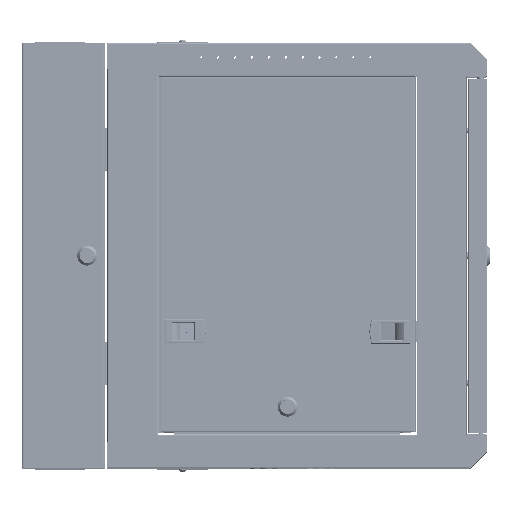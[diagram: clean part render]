
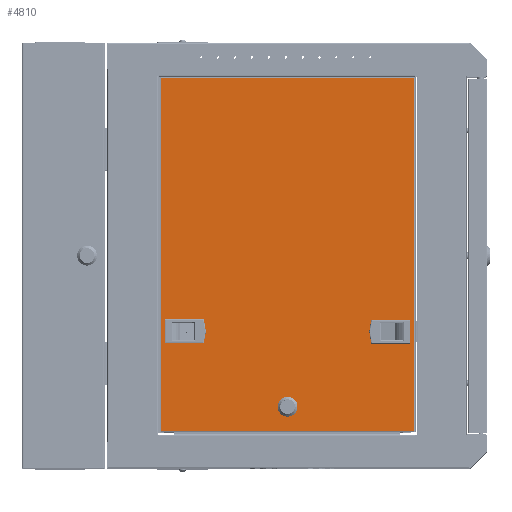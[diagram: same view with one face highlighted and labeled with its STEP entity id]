
A CAD part, top view. The second image highlights one B-rep face of the part: STEP entity #4810.
In plain terms, the highlighted planar face has unit normal (0, 0, 1) as drawn and (0, -1, 0) by its records, which use the part's own axes.
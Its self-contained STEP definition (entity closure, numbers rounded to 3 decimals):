
#4810 = ADVANCED_FACE( 'NONE', ( #12824, #12825, #12826, #12827 ), #12828, .T. );
#12824 = FACE_OUTER_BOUND( '', #32072, .T. );
#12825 = FACE_BOUND( '', #32073, .T. );
#12826 = FACE_BOUND( '', #32074, .T. );
#12827 = FACE_BOUND( '', #32075, .T. );
#12828 = PLANE( '', #32076 );
#32072 = EDGE_LOOP( '', ( #60616, #60617, #60618, #60619 ) );
#32073 = EDGE_LOOP( '', ( #60620, #60621, #60622, #60623 ) );
#32074 = EDGE_LOOP( '', ( #60624, #60625, #60626, #60627 ) );
#32075 = EDGE_LOOP( '', ( #60628, #60629, #60630, #60631 ) );
#32076 = AXIS2_PLACEMENT_3D( '', #60632, #60633, #60634 );
#60616 = ORIENTED_EDGE( '', *, *, #78583, .F. );
#60617 = ORIENTED_EDGE( '', *, *, #78477, .T. );
#60618 = ORIENTED_EDGE( '', *, *, #78415, .T. );
#60619 = ORIENTED_EDGE( '', *, *, #78419, .T. );
#60620 = ORIENTED_EDGE( '', *, *, #78644, .F. );
#60621 = ORIENTED_EDGE( '', *, *, #78645, .F. );
#60622 = ORIENTED_EDGE( '', *, *, #78627, .F. );
#60623 = ORIENTED_EDGE( '', *, *, #78568, .F. );
#60624 = ORIENTED_EDGE( '', *, *, #78603, .F. );
#60625 = ORIENTED_EDGE( '', *, *, #78612, .F. );
#60626 = ORIENTED_EDGE( '', *, *, #78474, .F. );
#60627 = ORIENTED_EDGE( '', *, *, #78589, .F. );
#60628 = ORIENTED_EDGE( '', *, *, #78611, .F. );
#60629 = ORIENTED_EDGE( '', *, *, #78639, .F. );
#60630 = ORIENTED_EDGE( '', *, *, #78586, .F. );
#60631 = ORIENTED_EDGE( '', *, *, #78594, .F. );
#60632 = CARTESIAN_POINT( '', ( -151.5, 0., 210.35 ) );
#60633 = DIRECTION( '', ( 0., -1., 0. ) );
#60634 = DIRECTION( '', ( 0., 0., -1. ) );
#78415 = EDGE_CURVE( 'NONE', #95142, #95140, #95143, .T. );
#78419 = EDGE_CURVE( 'NONE', #95140, #95149, #95150, .T. );
#78474 = EDGE_CURVE( 'NONE', #95251, #95253, #95254, .T. );
#78477 = EDGE_CURVE( 'NONE', #95258, #95142, #95259, .T. );
#78568 = EDGE_CURVE( 'NONE', #95412, #95414, #95415, .T. );
#78583 = EDGE_CURVE( 'NONE', #95258, #95149, #95441, .T. );
#78586 = EDGE_CURVE( 'NONE', #95443, #95445, #95446, .T. );
#78589 = EDGE_CURVE( 'NONE', #95448, #95251, #95450, .T. );
#78594 = EDGE_CURVE( 'NONE', #95456, #95443, #95458, .T. );
#78603 = EDGE_CURVE( 'NONE', #95469, #95448, #95471, .T. );
#78611 = EDGE_CURVE( 'NONE', #95480, #95456, #95482, .T. );
#78612 = EDGE_CURVE( 'NONE', #95253, #95469, #95483, .T. );
#78627 = EDGE_CURVE( 'NONE', #95414, #95503, #95504, .T. );
#78639 = EDGE_CURVE( 'NONE', #95445, #95480, #95519, .T. );
#78644 = EDGE_CURVE( 'NONE', #95525, #95412, #95526, .T. );
#78645 = EDGE_CURVE( 'NONE', #95503, #95525, #95527, .T. );
#95140 = VERTEX_POINT( 'NONE', #128069 );
#95142 = VERTEX_POINT( 'NONE', #128072 );
#95143 = LINE( '', #128073, #128074 );
#95149 = VERTEX_POINT( 'NONE', #128082 );
#95150 = LINE( '', #128083, #128084 );
#95251 = VERTEX_POINT( 'NONE', #128220 );
#95253 = VERTEX_POINT( 'NONE', #128223 );
#95254 = LINE( '', #128224, #128225 );
#95258 = VERTEX_POINT( 'NONE', #128231 );
#95259 = LINE( '', #128232, #128233 );
#95412 = VERTEX_POINT( 'NONE', #128448 );
#95414 = VERTEX_POINT( 'NONE', #128451 );
#95415 = LINE( '', #128452, #128453 );
#95441 = LINE( '', #128489, #128490 );
#95443 = VERTEX_POINT( 'NONE', #128493 );
#95445 = VERTEX_POINT( 'NONE', #128496 );
#95446 = CIRCLE( '', #128497, 9.5 );
#95448 = VERTEX_POINT( 'NONE', #128500 );
#95450 = LINE( '', #128503, #128504 );
#95456 = VERTEX_POINT( 'NONE', #128513 );
#95458 = LINE( '', #128516, #128517 );
#95469 = VERTEX_POINT( 'NONE', #128534 );
#95471 = LINE( '', #128537, #128538 );
#95480 = VERTEX_POINT( 'NONE', #128553 );
#95482 = CIRCLE( '', #128556, 9.5 );
#95483 = LINE( '', #128557, #128558 );
#95503 = VERTEX_POINT( 'NONE', #128590 );
#95504 = LINE( '', #128591, #128592 );
#95519 = LINE( '', #128614, #128615 );
#95525 = VERTEX_POINT( 'NONE', #128624 );
#95526 = LINE( '', #128625, #128626 );
#95527 = LINE( '', #128627, #128628 );
#128069 = CARTESIAN_POINT( '', ( -150.2, 0., -209.05 ) );
#128072 = CARTESIAN_POINT( '', ( -150.2, 0., 209.05 ) );
#128073 = CARTESIAN_POINT( '', ( -150.2, 0., 210.35 ) );
#128074 = VECTOR( '', #148989, 1000. );
#128082 = CARTESIAN_POINT( '', ( 150.2, 0., -209.05 ) );
#128083 = CARTESIAN_POINT( '', ( -150.2, 0., -209.05 ) );
#128084 = VECTOR( '', #148995, 1000. );
#128220 = CARTESIAN_POINT( '', ( -101.3, 0., -103.95 ) );
#128223 = CARTESIAN_POINT( '', ( -101.3, 0., -78.95 ) );
#128224 = CARTESIAN_POINT( '', ( -101.3, 0., -78.95 ) );
#128225 = VECTOR( '', #149086, 1000. );
#128231 = CARTESIAN_POINT( '', ( 150.2, 0., 209.05 ) );
#128232 = CARTESIAN_POINT( '', ( 150.2, 0., 209.05 ) );
#128233 = VECTOR( '', #149089, 1000. );
#128448 = CARTESIAN_POINT( '', ( 101.3, 0., -78.95 ) );
#128451 = CARTESIAN_POINT( '', ( 101.3, 0., -103.95 ) );
#128452 = CARTESIAN_POINT( '', ( 101.3, 0., -78.95 ) );
#128453 = VECTOR( '', #149234, 1000. );
#128489 = CARTESIAN_POINT( '', ( 150.2, 0., 210.35 ) );
#128490 = VECTOR( '', #149257, 1000. );
#128493 = CARTESIAN_POINT( '', ( -8.5, 0., -184.593 ) );
#128496 = CARTESIAN_POINT( '', ( 8.5, 0., -184.593 ) );
#128497 = AXIS2_PLACEMENT_3D( '', #149260, #149261, #149262 );
#128500 = CARTESIAN_POINT( '', ( -137.7, 0., -103.95 ) );
#128503 = CARTESIAN_POINT( '', ( -137.7, 0., -103.95 ) );
#128504 = VECTOR( '', #149265, 1000. );
#128513 = CARTESIAN_POINT( '', ( -8.5, 0., -176.107 ) );
#128516 = CARTESIAN_POINT( '', ( -8.5, 0., -176.107 ) );
#128517 = VECTOR( '', #149270, 1000. );
#128534 = CARTESIAN_POINT( '', ( -137.7, 0., -78.95 ) );
#128537 = CARTESIAN_POINT( '', ( -137.7, 0., -78.95 ) );
#128538 = VECTOR( '', #149281, 1000. );
#128553 = CARTESIAN_POINT( '', ( 8.5, 0., -176.107 ) );
#128556 = AXIS2_PLACEMENT_3D( '', #149289, #149290, #149291 );
#128557 = CARTESIAN_POINT( '', ( -137.7, 0., -78.95 ) );
#128558 = VECTOR( '', #149292, 1000. );
#128590 = CARTESIAN_POINT( '', ( 137.7, 0., -103.95 ) );
#128591 = CARTESIAN_POINT( '', ( 137.7, 0., -103.95 ) );
#128592 = VECTOR( '', #149311, 1000. );
#128614 = CARTESIAN_POINT( '', ( 8.5, 0., -176.107 ) );
#128615 = VECTOR( '', #149331, 1000. );
#128624 = CARTESIAN_POINT( '', ( 137.7, 0., -78.95 ) );
#128625 = CARTESIAN_POINT( '', ( 137.7, 0., -78.95 ) );
#128626 = VECTOR( '', #149338, 1000. );
#128627 = CARTESIAN_POINT( '', ( 137.7, 0., -78.95 ) );
#128628 = VECTOR( '', #149339, 1000. );
#148989 = DIRECTION( '', ( 0., 0., -1. ) );
#148995 = DIRECTION( '', ( 1., 0., 0. ) );
#149086 = DIRECTION( '', ( 0., 0., 1. ) );
#149089 = DIRECTION( '', ( -1., 0., 0. ) );
#149234 = DIRECTION( '', ( 0., 0., -1. ) );
#149257 = DIRECTION( '', ( 0., 0., -1. ) );
#149260 = CARTESIAN_POINT( '', ( 0., 0., -180.35 ) );
#149261 = DIRECTION( '', ( 0., -1., 0. ) );
#149262 = DIRECTION( '', ( 1., 0., 0. ) );
#149265 = DIRECTION( '', ( 1., 0., 0. ) );
#149270 = DIRECTION( '', ( 0., 0., -1. ) );
#149281 = DIRECTION( '', ( 0., 0., -1. ) );
#149289 = CARTESIAN_POINT( '', ( 0., 0., -180.35 ) );
#149290 = DIRECTION( '', ( 0., -1., 0. ) );
#149291 = DIRECTION( '', ( 1., 0., 0. ) );
#149292 = DIRECTION( '', ( -1., 0., 0. ) );
#149311 = DIRECTION( '', ( 1., 0., 0. ) );
#149331 = DIRECTION( '', ( 0., 0., 1. ) );
#149338 = DIRECTION( '', ( -1., 0., 0. ) );
#149339 = DIRECTION( '', ( 0., 0., 1. ) );
